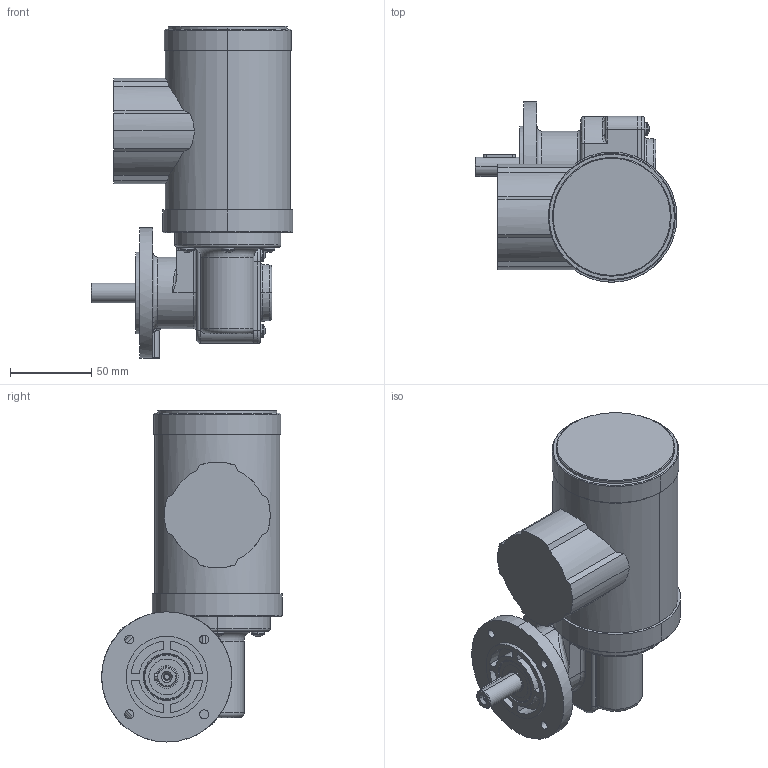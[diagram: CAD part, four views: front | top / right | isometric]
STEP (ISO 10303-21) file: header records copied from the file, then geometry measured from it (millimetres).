
FILE_DESCRIPTION (( 'STEP AP214' ), '1' );
FILE_NAME ('SN5FR_90W_3000Upm_B.STEP', '2021-03-04T09:35:17', ( '' ), ( '' ), 'SwSTEP 2.0', 'SolidWorks 2019', '' );
FILE_SCHEMA (( 'AUTOMOTIVE_DESIGN' ));
Length unit declared in the file: millimetre
Products named in the file (1): SN5FR_90W_3000Upm_B
Bounding box: 124 x 111 x 204 mm (x, y, z)
Surface area: 88428.2 mm2 (no closed solid volume)
Topology: 0 solids, 14 shells, 356 faces, 994 edges, 657 vertices
Faces by surface type: plane 136, cylinder 104, torus 44, cone 43, sphere 16, bspline 13
Entity records: 16846 total; most frequent: CARTESIAN_POINT 3699, DIRECTION 2069, ORIENTED_EDGE 1775, EDGE_CURVE 993, AXIS2_PLACEMENT_3D 860, VERTEX_POINT 657, CIRCLE 516, EDGE_LOOP 402
